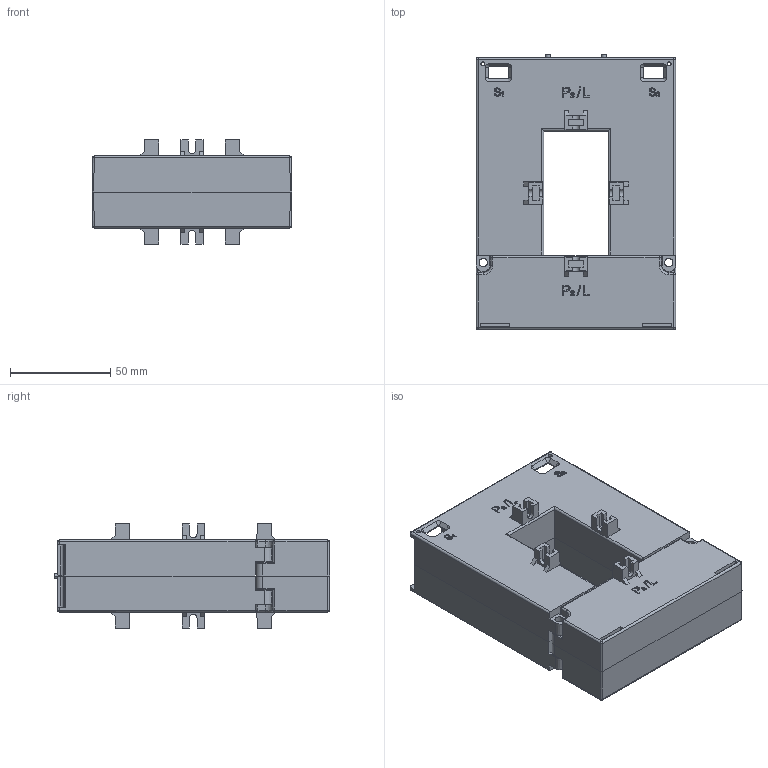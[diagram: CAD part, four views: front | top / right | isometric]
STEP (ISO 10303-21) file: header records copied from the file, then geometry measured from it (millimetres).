
FILE_DESCRIPTION(/* description */ (''),/* implementation_level */ '2;1');
FILE_NAME(/* name */ 'TA60P.step',/* time_stamp */ '2025-12-15T10:07:22+01:00',/* author */ (''),/* organization */ (''),/* preprocessor_version */ 'ST-DEVELOPER v20.1',/* originating_system */ 'Autodesk Translation Framework v14.21.0.0',/* authorisation */ '');
FILE_SCHEMA (('AUTOMOTIVE_DESIGN { 1 0 10303 214 3 1 1 }'));
Length unit declared in the file: millimetre
Products named in the file (1): TA60P
Bounding box: 99.8 x 137.47 x 52 mm (x, y, z)
Volume: 120726.4 mm3; surface area: 111681.4 mm2
Topology: 4 solids, 4 shells, 1316 faces, 3641 edges, 2382 vertices
Faces by surface type: plane 912, cylinder 278, bspline 82, cone 32, sphere 8, torus 4
Full cylindrical faces by diameter (mm): 1.006 x4, 4.2 x8, 5.2 x2, 5.5 x2
Entity records: 44949 total; most frequent: CARTESIAN_POINT 11292, ORIENTED_EDGE 7250, DIRECTION 6556, EDGE_CURVE 3625, LINE 2844, VECTOR 2844, VERTEX_POINT 2382, AXIS2_PLACEMENT_3D 1856
